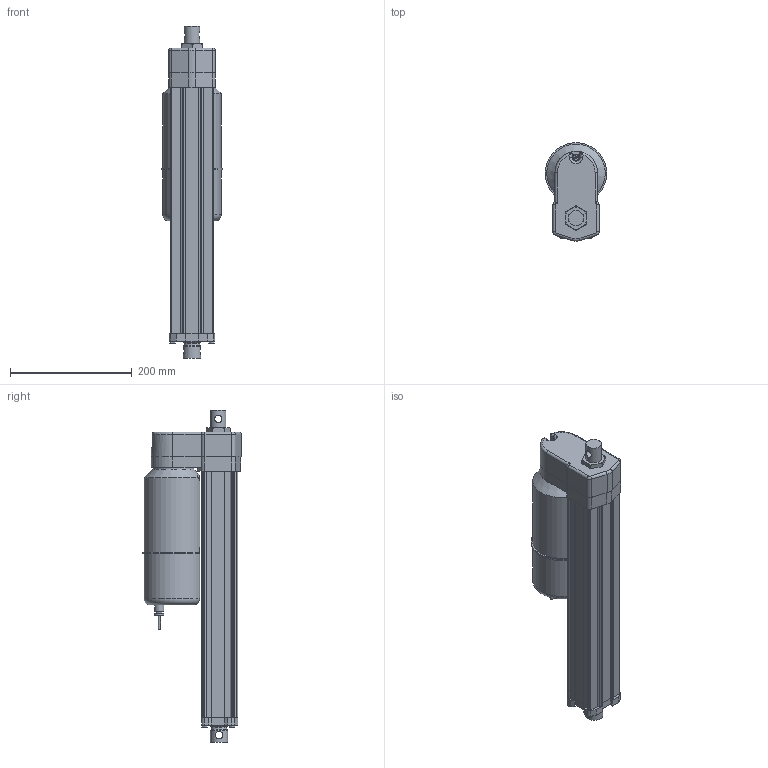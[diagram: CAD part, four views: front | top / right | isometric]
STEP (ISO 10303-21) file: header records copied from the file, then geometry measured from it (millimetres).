
FILE_DESCRIPTION (( 'STEP AP214' ), '1' );
FILE_NAME ('AA22-05B65M-30M0N-tollo.step', '2020-04-14T18:44:21', ( '' ), ( '' ), 'SwSTEP 2.0', 'SolidWorks 2010', '' );
FILE_SCHEMA (( 'AUTOMOTIVE_DESIGN' ));
Length unit declared in the file: millimetre
Products named in the file (8): Electrak-LA24-Motor-AA22-05B65M-30M0N-tollo_Electrak-LA24-Motor-AA22-05B65M-30M0N-tollo; Electrak-LA24-Rear-AA22-05B65M-30M0N-tollo_Electrak-LA24-Rear-AA22-05B65M-30M0N-tollo; Electrak-LA24-Tube-AA22-05B65M-30M0N-tollo_Electrak-LA24-Tube-AA22-05B65M-30M0N-tollo; Electrak-LA24-Rod-AA22-05B65M-30M0N-tollo_Electrak-LA24-Rod-AA22-05B65M-30M0N-tollo; Electrak-LA24-Plate-AA22-05B65M-30M0N-tollo_Electrak-LA24-Plate-AA22-05B65M-30M0N-tollo; Screw-MFX-H-M5_Screw-MFX-H-M5x24H; Screw-M6S-M5-AA22-05B65M-30M0N-tollo_Screw-M6S-M5-AA22-05B65M-30M0N-tollo; AA22-05B65M-30M0N-tollo
Assembly tree (10 placements, depth 2):
  AA22-05B65M-30M0N-tollo
    Screw-M6S-M5-AA22-05B65M-30M0N-tollo_Screw-M6S-M5-AA22-05B65M-30M0N-tollo  x4
    Screw-MFX-H-M5_Screw-MFX-H-M5x24H
    Electrak-LA24-Rear-AA22-05B65M-30M0N-tollo_Electrak-LA24-Rear-AA22-05B65M-30M0N-tollo
    Electrak-LA24-Plate-AA22-05B65M-30M0N-tollo_Electrak-LA24-Plate-AA22-05B65M-30M0N-tollo
    Electrak-LA24-Rod-AA22-05B65M-30M0N-tollo_Electrak-LA24-Rod-AA22-05B65M-30M0N-tollo
    Electrak-LA24-Tube-AA22-05B65M-30M0N-tollo_Electrak-LA24-Tube-AA22-05B65M-30M0N-tollo
    Electrak-LA24-Motor-AA22-05B65M-30M0N-tollo_Electrak-LA24-Motor-AA22-05B65M-30M0N-tollo
Bounding box: 100.99 x 162.5 x 545.7 mm (x, y, z)
Volume: 2830562 mm3; surface area: 416212.1 mm2
Topology: 10 solids, 10 shells, 353 faces, 886 edges, 572 vertices
Faces by surface type: plane 174, cylinder 128, cone 31, torus 15, bspline 3, sphere 2
Full cylindrical faces by diameter (mm): 4 x1, 4.126 x5, 4.8 x6, 5 x5, 5.6 x4, 7.878 x4, 9.3 x1, 10 x1, 12.2 x2, 15 x2, 25.4 x1, 28.6 x4, 47.625 x1, 68 x1
Entity records: 9633 total; most frequent: CARTESIAN_POINT 2397, DIRECTION 1446, ORIENTED_EDGE 1338, EDGE_CURVE 669, AXIS2_PLACEMENT_3D 527, VERTEX_POINT 460, LINE 392, VECTOR 392
